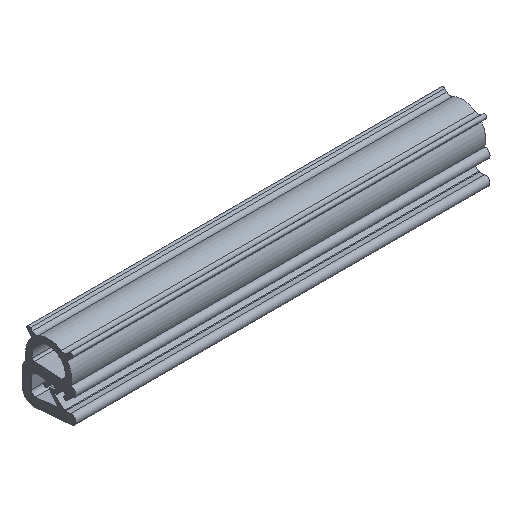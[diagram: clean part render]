
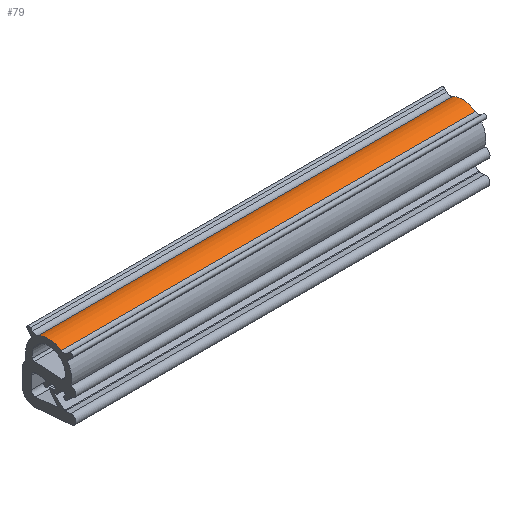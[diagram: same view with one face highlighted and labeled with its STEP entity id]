
A CAD part, isometric view. The second image highlights one B-rep face of the part: STEP entity #79.
In plain terms, the highlighted cylindrical face has radius 5.562 mm (diameter 11.124 mm), a partial arc.
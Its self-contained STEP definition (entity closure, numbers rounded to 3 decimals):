
#79 = ADVANCED_FACE( '', ( #138 ), #139, .T. );
#138 = FACE_OUTER_BOUND( '', #248, .T. );
#139 = CYLINDRICAL_SURFACE( '', #249, 5.562 );
#248 = EDGE_LOOP( '', ( #378, #379, #380, #381 ) );
#249 = AXIS2_PLACEMENT_3D( '', #382, #383, #384 );
#378 = ORIENTED_EDGE( '', *, *, #837, .T. );
#379 = ORIENTED_EDGE( '', *, *, #838, .F. );
#380 = ORIENTED_EDGE( '', *, *, #839, .F. );
#381 = ORIENTED_EDGE( '', *, *, #835, .T. );
#382 = CARTESIAN_POINT( '', ( 100., 6.578, 5.688 ) );
#383 = DIRECTION( '', ( 1., 0., 0. ) );
#384 = DIRECTION( '', ( 0., 0., 1. ) );
#835 = EDGE_CURVE( '', #1000, #998, #1001, .T. );
#837 = EDGE_CURVE( '', #998, #1003, #1004, .T. );
#838 = EDGE_CURVE( '', #1005, #1003, #1006, .T. );
#839 = EDGE_CURVE( '', #1000, #1005, #1007, .T. );
#998 = VERTEX_POINT( '', #1266 );
#1000 = VERTEX_POINT( '', #1268 );
#1001 = LINE( '', #1269, #1270 );
#1003 = VERTEX_POINT( '', #1272 );
#1004 = CIRCLE( '', #1273, 5.562 );
#1005 = VERTEX_POINT( '', #1274 );
#1006 = LINE( '', #1275, #1276 );
#1007 = CIRCLE( '', #1277, 5.562 );
#1266 = CARTESIAN_POINT( '', ( 0., 9.07, 10.661 ) );
#1268 = CARTESIAN_POINT( '', ( 100., 9.07, 10.661 ) );
#1269 = CARTESIAN_POINT( '', ( 100., 9.07, 10.661 ) );
#1270 = VECTOR( '', #1611, 1000. );
#1272 = CARTESIAN_POINT( '', ( 0., 3.519, 10.333 ) );
#1273 = AXIS2_PLACEMENT_3D( '', #1615, #1616, #1617 );
#1274 = CARTESIAN_POINT( '', ( 100., 3.519, 10.333 ) );
#1275 = CARTESIAN_POINT( '', ( 100., 3.519, 10.333 ) );
#1276 = VECTOR( '', #1618, 1000. );
#1277 = AXIS2_PLACEMENT_3D( '', #1619, #1620, #1621 );
#1611 = DIRECTION( '', ( -1., 0., 0. ) );
#1615 = CARTESIAN_POINT( '', ( 0., 6.578, 5.688 ) );
#1616 = DIRECTION( '', ( 1., 0., 0. ) );
#1617 = DIRECTION( '', ( 0., 0., -1. ) );
#1618 = DIRECTION( '', ( -1., 0., 0. ) );
#1619 = CARTESIAN_POINT( '', ( 100., 6.578, 5.688 ) );
#1620 = DIRECTION( '', ( 1., 0., 0. ) );
#1621 = DIRECTION( '', ( 0., 0., -1. ) );
